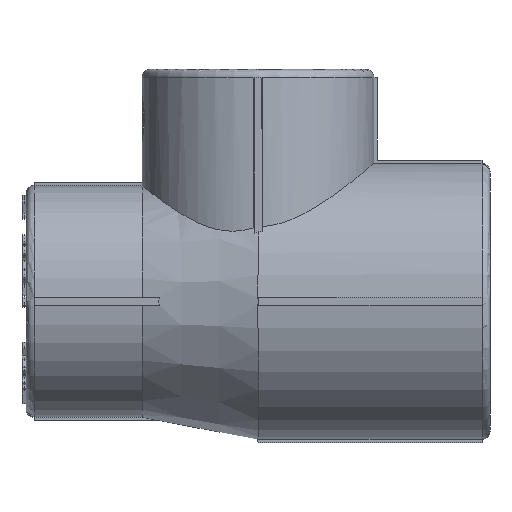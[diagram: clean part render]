
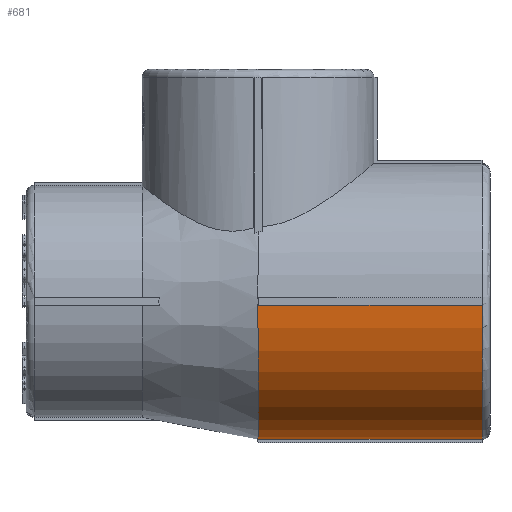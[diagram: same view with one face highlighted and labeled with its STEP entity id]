
A CAD part, left-side view. The second image highlights one B-rep face of the part: STEP entity #681.
In plain terms, the highlighted cylindrical face has radius 17.25 mm (diameter 34.5 mm), a partial arc.
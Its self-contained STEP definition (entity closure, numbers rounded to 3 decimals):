
#681=ADVANCED_FACE('',(#5295),#5297,.T.);
#5295=FACE_BOUND('',#5296,.T.);
#5296=EDGE_LOOP('',(#13267,#13268,#13269,#13270));
#5297=CYLINDRICAL_SURFACE('',#5298,17.25);
#5298=AXIS2_PLACEMENT_3D('',#5299,#5300,#5301);
#5299=CARTESIAN_POINT('',(0.,0.,0.));
#5300=DIRECTION('',(0.,-1.,0.));
#5301=DIRECTION('',(1.,0.,0.));
#13267=ORIENTED_EDGE('',*,*,#18735,.F.);
#13268=ORIENTED_EDGE('',*,*,#18736,.F.);
#13269=ORIENTED_EDGE('',*,*,#18737,.F.);
#13270=ORIENTED_EDGE('',*,*,#18689,.F.);
#18689=EDGE_CURVE('',#23022,#23024,#23025,.F.);
#18735=EDGE_CURVE('',#23099,#23022,#23100,.F.);
#18736=EDGE_CURVE('',#23101,#23099,#23102,.T.);
#18737=EDGE_CURVE('',#23024,#23101,#23103,.T.);
#23022=VERTEX_POINT('',#31875);
#23024=VERTEX_POINT('',#31880);
#23025=CIRCLE('',#31881,17.25);
#23099=VERTEX_POINT('',#32370);
#23100=LINE('',#32371,#32372);
#23101=VERTEX_POINT('',#32374);
#23102=CIRCLE('',#32375,17.25);
#23103=LINE('',#32379,#32380);
#31875=CARTESIAN_POINT('',(-0.5,0.,-17.243));
#31880=CARTESIAN_POINT('',(-17.243,0.,-0.5));
#31881=AXIS2_PLACEMENT_3D('',#31882,#31883,#31884);
#31882=CARTESIAN_POINT('',(0.,0.,0.));
#31883=DIRECTION('',(0.,-1.,0.));
#31884=DIRECTION('',(-1.,0.,-0.029));
#32370=CARTESIAN_POINT('',(-0.5,-28.,-17.243));
#32371=CARTESIAN_POINT('',(-0.5,0.,-17.243));
#32372=VECTOR('',#32373,1.);
#32373=DIRECTION('',(0.,-1.,0.));
#32374=CARTESIAN_POINT('',(-17.243,-28.,-0.5));
#32375=AXIS2_PLACEMENT_3D('',#32376,#32377,#32378);
#32376=CARTESIAN_POINT('',(0.,-28.,0.));
#32377=DIRECTION('',(0.,-1.,0.));
#32378=DIRECTION('',(-1.,0.,-0.029));
#32379=CARTESIAN_POINT('',(-17.243,0.,-0.5));
#32380=VECTOR('',#32381,1.);
#32381=DIRECTION('',(0.,-1.,0.));
